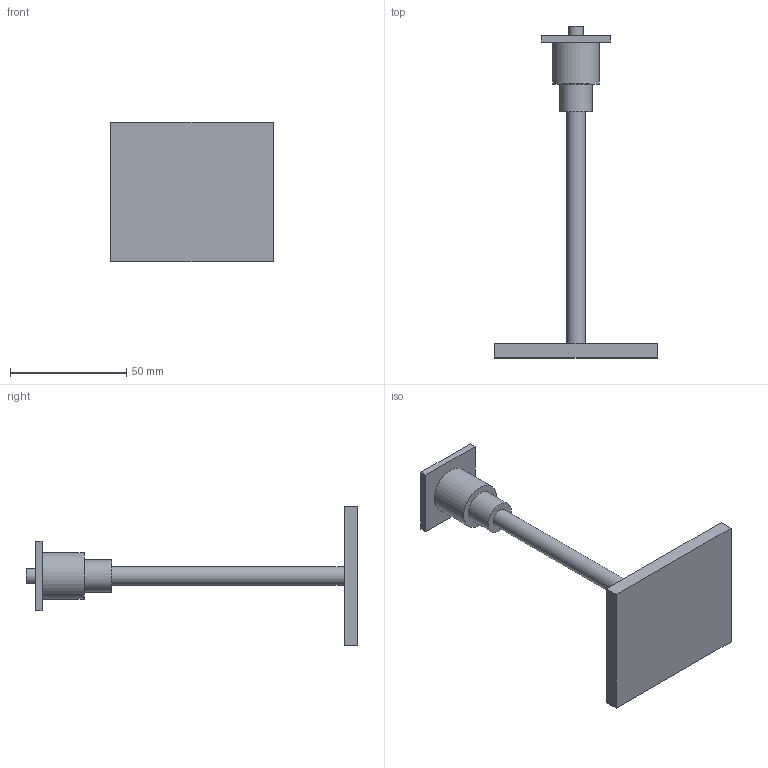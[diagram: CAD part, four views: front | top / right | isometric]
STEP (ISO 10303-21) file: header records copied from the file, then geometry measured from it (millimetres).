
FILE_DESCRIPTION(('Open CASCADE Model'),'2;1');
FILE_NAME('Open CASCADE Shape Model','2026-10-16T20:39:04',('Author'),( 'Open CASCADE'),'Open CASCADE STEP processor 7.8','Open CASCADE 7.8' ,'Unknown');
FILE_SCHEMA(('AUTOMOTIVE_DESIGN { 1 0 10303 214 1 1 1 1 }'));
Length unit declared in the file: millimetre
Products named in the file (7): simple_stick_review; ST01; ST02; ST03; ST04; ST05; ST06
Assembly tree (6 placements, depth 2):
  simple_stick_review
    ST01
    ST02
    ST03
    ST04
    ST05
    ST06
Bounding box: 70 x 143 x 60 mm (x, y, z)
Volume: 40542.2 mm3; surface area: 18037.8 mm2
Topology: 6 solids, 6 shells, 26 faces, 42 edges, 28 vertices
Faces by surface type: plane 20, cylinder 6
Full cylindrical faces by diameter (mm): 6.35 x1, 6.6 x1, 8 x2, 14 x1, 20 x1
Entity records: 1266 total; most frequent: DIRECTION 202, CARTESIAN_POINT 199, LINE 102, VECTOR 102, ORIENTED_EDGE 84, PCURVE 84, DEFINITIONAL_REPRESENTATION 84, AXIS2_PLACEMENT_3D 45
